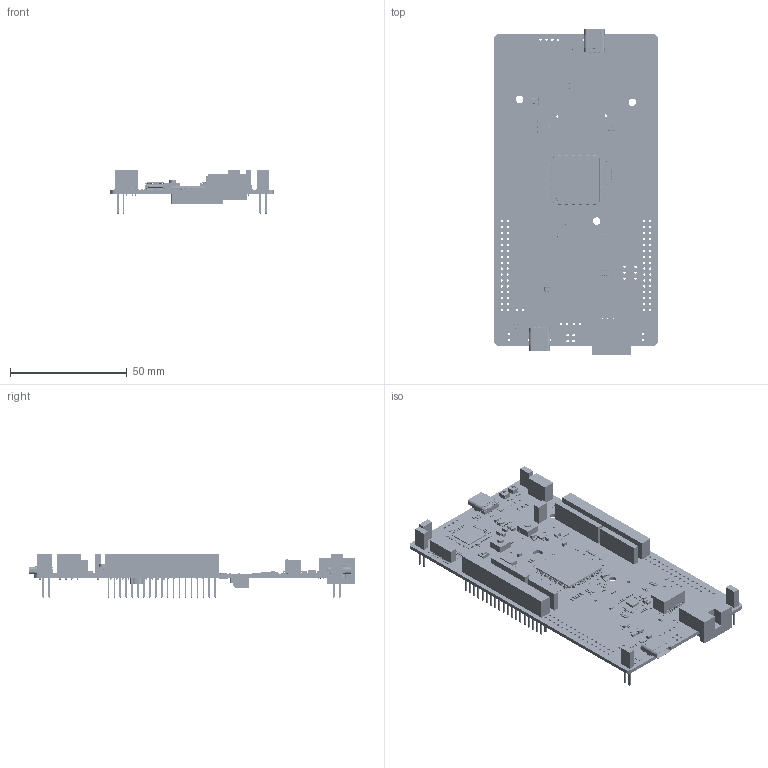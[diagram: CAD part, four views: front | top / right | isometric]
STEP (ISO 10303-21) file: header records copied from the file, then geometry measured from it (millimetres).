
FILE_DESCRIPTION(('Open CASCADE Model'),'2;1');
FILE_NAME('Open CASCADE Shape Model','2025-09-03T16:46:14',('Author'),( 'Open CASCADE'),'Open CASCADE STEP processor 7.5','Open CASCADE 7.5' ,'Unknown');
FILE_SCHEMA(('AUTOMOTIVE_DESIGN { 1 0 10303 214 1 1 1 1 }'));
Length unit declared in the file: millimetre
Products named in the file (523): PCB; Board; Open CASCADE STEP translator 7.5 2.1.1; U38; 7419068848; Extruded; U37; U36; U35; U34; U33; U32; U31; U30; SB53; R0603; 7420929488; SB9; 7419057328; SB10; SB38; Q4; SOT23-3_TO-236AB; 7420145440; R47; R0402; 7420928688; U24; U23; SB29; SB43; R60; 7419056528; R90; R107; R106; R52; Q3; Q1; CN14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
Assembly tree (1258 placements, depth 4):
  PCB
    Board
      Open CASCADE STEP translator 7.5 2.1.1
    U38
      7419068848
        Extruded
    U37
      7419068848
        Extruded
    U36
      7419068848
        Extruded
    U35
      7419068848
        Extruded
    U34
      7419068848
        Extruded
    U33
      7419068848
        Extruded
    U32
      7419068848
        Extruded
    U31
      7419068848
        Extruded
    U30
      7419068848
        Extruded
    SB53
      R0603
      7420929488
        Extruded
    SB9
      R0603
      7419057328
        Extruded
    SB10
      R0603
      7419057328
        Extruded
    SB38
      R0603
      7419057328
        Extruded
    Q4
      SOT23-3_TO-236AB
      7420145440
        Extruded
    R47
      R0402
      7420928688
        Extruded
    U24
      7419068848
        Extruded
    U23
      7419068848
        Extruded
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Bounding box: 70 x 139.76 x 18.67 mm (x, y, z)
Volume: 30219.8 mm3; surface area: 47988.4 mm2
Topology: 1190 solids, 1246 shells, 58946 faces, 142026 edges, 82851 vertices
Faces by surface type: plane 26291, cylinder 15983, bspline 8719, sphere 5334, torus 1901, revolution 554, cone 164
Full cylindrical faces by diameter (mm): 0.2 x1, 0.3 x2, 0.4 x14, 0.5 x1, 0.65 x2, 0.7 x12, 1 x182, 1.1 x36, 1.15 x1, 1.5 x2, 1.65 x1, 3.2 x3, 4.05 x1, 4.15 x1, 5.6 x1
Entity records: 546518 total; most frequent: CARTESIAN_POINT 100996, ORIENTED_EDGE 78013, DIRECTION 77659, EDGE_CURVE 39041, LINE 29687, VECTOR 29687, VERTEX_POINT 24792, AXIS2_PLACEMENT_3D 23957
